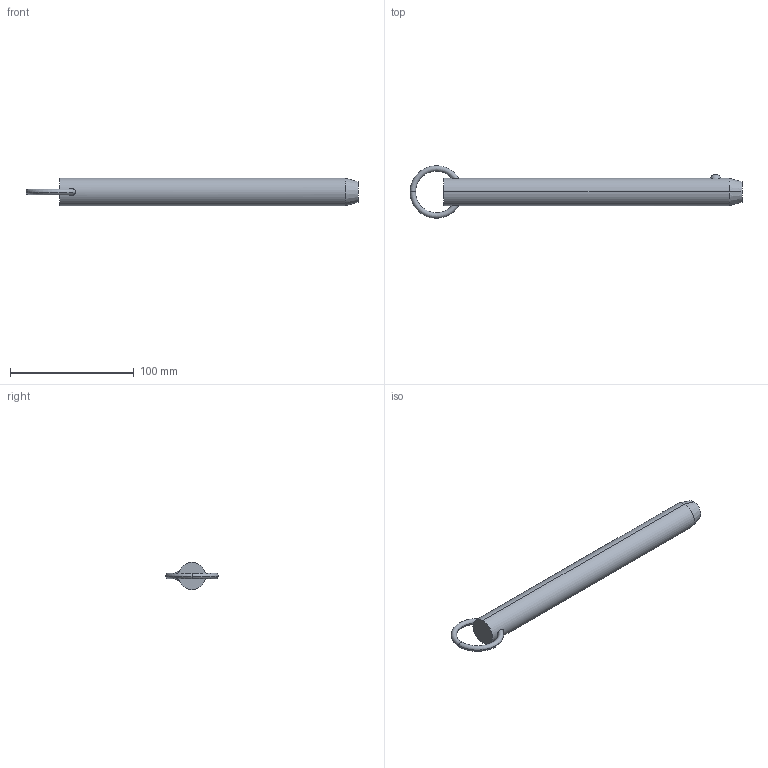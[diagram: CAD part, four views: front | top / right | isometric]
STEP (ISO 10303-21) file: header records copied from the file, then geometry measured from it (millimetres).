
FILE_DESCRIPTION (( 'STEP AP203' ), '1' );
FILE_NAME ('33010.W8880.step', '2024-11-01T10:47:02', ( '' ), ( '' ), 'SwSTEP 2.0', 'SolidWorks 2019', '' );
FILE_SCHEMA (( 'CONFIG_CONTROL_DESIGN' ));
Length unit declared in the file: millimetre
Products named in the file (3): Part1_33010.W8880; Part2_33010.W8880; 33010.W8880
Assembly tree (2 placements, depth 2):
  33010.W8880
    Part1_33010.W8880
    Part2_33010.W8880
Bounding box: 268.66 x 42.55 x 22.23 mm (x, y, z)
Volume: 94122 mm3; surface area: 19446.8 mm2
Topology: 2 solids, 2 shells, 16 faces, 31 edges, 18 vertices
Faces by surface type: torus 8, sphere 2, cone 2, cylinder 2, plane 2
Entity records: 903 total; most frequent: CARTESIAN_POINT 260, DIRECTION 88, ORIENTED_EDGE 62, AXIS2_PLACEMENT_3D 42, EDGE_CURVE 31, PERSON_AND_ORGANIZATION 26, CIRCLE 21, LOCAL_TIME 19
